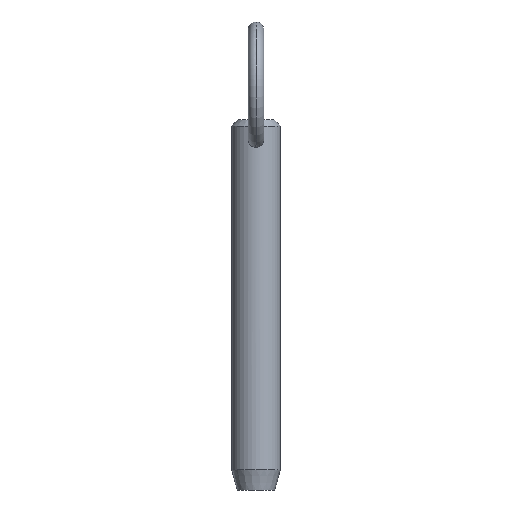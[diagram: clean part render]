
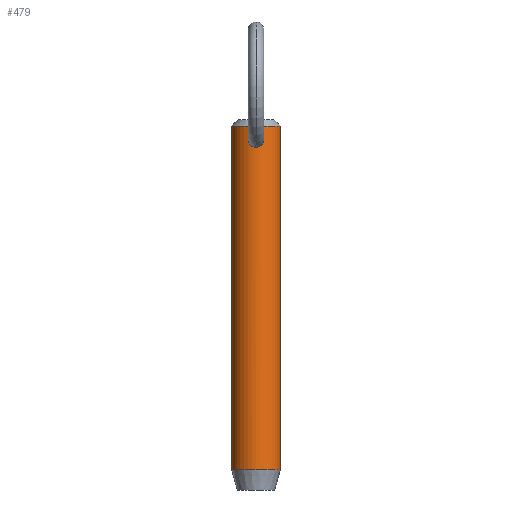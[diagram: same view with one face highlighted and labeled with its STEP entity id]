
A CAD part, front view. The second image highlights one B-rep face of the part: STEP entity #479.
In plain terms, the highlighted cylindrical face has radius 4.76 mm (diameter 9.52 mm), a partial arc.
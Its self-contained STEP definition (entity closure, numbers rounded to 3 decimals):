
#9 = VECTOR ( 'NONE', #254, 1000. ) ;
#18 = CARTESIAN_POINT ( 'NONE',  ( 1.478, -4.525, 56.052 ) ) ;
#24 = CARTESIAN_POINT ( 'NONE',  ( -0.703, -4.709, 54.389 ) ) ;
#27 = CARTESIAN_POINT ( 'NONE',  ( -0.103, -4.76, 57.548 ) ) ;
#29 = CARTESIAN_POINT ( 'NONE',  ( -1.483, -4.524, 55.426 ) ) ;
#30 = CARTESIAN_POINT ( 'NONE',  ( 0.97, -4.662, 54.55 ) ) ;
#45 = DIRECTION ( 'NONE',  ( 0., 0., 1. ) ) ;
#47 = CARTESIAN_POINT ( 'NONE',  ( 0.209, -4.756, 57.534 ) ) ;
#48 = CARTESIAN_POINT ( 'NONE',  ( 4.76, 0., 53.3 ) ) ;
#49 = CARTESIAN_POINT ( 'NONE',  ( 1.45, -4.534, 55.328 ) ) ;
#51 = CARTESIAN_POINT ( 'NONE',  ( -0.208, -4.757, 57.534 ) ) ;
#52 = CARTESIAN_POINT ( 'NONE',  ( 1.492, -4.52, 55.948 ) ) ;
#54 = VERTEX_POINT ( 'NONE', #200 ) ;
#59 = CARTESIAN_POINT ( 'NONE',  ( 0., -4.76, 54.226 ) ) ;
#77 = B_SPLINE_CURVE_WITH_KNOTS ( 'NONE', 3,
 ( #218, #215, #221, #24, #141, #508, #259, #261, #263, #29, #257, #173, #131, #429, #168, #468, #341, #309, #90, #51, #27, #472 ),
 .UNSPECIFIED., .F., .F.,
 ( 4, 2, 2, 2, 2, 2, 2, 2, 2, 2, 4 ),
 ( 0.009, 0.01, 0.01, 0.011, 0.011, 0.012, 0.012, 0.013, 0.014, 0.014, 0.014 ),
 .UNSPECIFIED. ) ;
#89 = CARTESIAN_POINT ( 'NONE',  ( 1.344, -4.567, 55.039 ) ) ;
#90 = CARTESIAN_POINT ( 'NONE',  ( -0.409, -4.743, 57.478 ) ) ;
#94 = CIRCLE ( 'NONE', #146, 4.76 ) ;
#105 = CARTESIAN_POINT ( 'NONE',  ( 0., -4.76, 57.548 ) ) ;
#109 = CARTESIAN_POINT ( 'NONE',  ( 0.104, -4.76, 57.548 ) ) ;
#117 = LINE ( 'NONE', #461, #9 ) ;
#122 = CARTESIAN_POINT ( 'NONE',  ( 0.506, -4.734, 57.437 ) ) ;
#124 = CARTESIAN_POINT ( 'NONE',  ( -4.76, 0., -8.7 ) ) ;
#126 = ORIENTED_EDGE ( 'NONE', *, *, #191, .T. ) ;
#130 = CARTESIAN_POINT ( 'NONE',  ( 1.178, -4.613, 54.776 ) ) ;
#131 = CARTESIAN_POINT ( 'NONE',  ( -1.441, -4.537, 56.257 ) ) ;
#135 = AXIS2_PLACEMENT_3D ( 'NONE', #139, #217, #389 ) ;
#139 = CARTESIAN_POINT ( 'NONE',  ( 0., 0., 58.35 ) ) ;
#141 = CARTESIAN_POINT ( 'NONE',  ( -0.793, -4.694, 54.439 ) ) ;
#146 = AXIS2_PLACEMENT_3D ( 'NONE', #209, #45, #211 ) ;
#151 = EDGE_CURVE ( 'NONE', #177, #54, #418, .T. ) ;
#156 = CARTESIAN_POINT ( 'NONE',  ( 4.76, 0., 58.35 ) ) ;
#165 = AXIS2_PLACEMENT_3D ( 'NONE', #172, #258, #349 ) ;
#168 = CARTESIAN_POINT ( 'NONE',  ( -1.19, -4.611, 56.824 ) ) ;
#172 = CARTESIAN_POINT ( 'NONE',  ( 0., 0., 53.3 ) ) ;
#173 = CARTESIAN_POINT ( 'NONE',  ( -1.487, -4.522, 56.053 ) ) ;
#177 = VERTEX_POINT ( 'NONE', #156 ) ;
#179 = EDGE_CURVE ( 'NONE', #305, #190, #117, .T. ) ;
#190 = VERTEX_POINT ( 'NONE', #124 ) ;
#191 = EDGE_CURVE ( 'NONE', #190, #54, #94, .T. ) ;
#200 = CARTESIAN_POINT ( 'NONE',  ( 4.76, 0., -8.7 ) ) ;
#205 = CARTESIAN_POINT ( 'NONE',  ( 1.499, -4.518, 55.637 ) ) ;
#208 = CARTESIAN_POINT ( 'NONE',  ( 1.19, -4.611, 56.824 ) ) ;
#209 = CARTESIAN_POINT ( 'NONE',  ( 0., 0., -8.7 ) ) ;
#210 = CARTESIAN_POINT ( 'NONE',  ( 0.77, -4.698, 57.275 ) ) ;
#211 = DIRECTION ( 'NONE',  ( -1., 0., 0. ) ) ;
#215 = CARTESIAN_POINT ( 'NONE',  ( -0.21, -4.76, 54.226 ) ) ;
#217 = DIRECTION ( 'NONE',  ( 0., 0., -1. ) ) ;
#218 = CARTESIAN_POINT ( 'NONE',  ( 0., -4.76, 54.226 ) ) ;
#219 = EDGE_CURVE ( 'NONE', #455, #370, #77, .T. ) ;
#221 = CARTESIAN_POINT ( 'NONE',  ( -0.416, -4.746, 54.267 ) ) ;
#234 = CIRCLE ( 'NONE', #135, 4.76 ) ;
#243 = FACE_OUTER_BOUND ( 'NONE', #509, .T. ) ;
#253 = CARTESIAN_POINT ( 'NONE',  ( 0.997, -4.655, 57.064 ) ) ;
#254 = DIRECTION ( 'NONE',  ( 0., 0., -1. ) ) ;
#257 = CARTESIAN_POINT ( 'NONE',  ( -1.508, -4.515, 55.637 ) ) ;
#258 = DIRECTION ( 'NONE',  ( 0., 0., -1. ) ) ;
#259 = CARTESIAN_POINT ( 'NONE',  ( -1.039, -4.646, 54.626 ) ) ;
#261 = CARTESIAN_POINT ( 'NONE',  ( -1.247, -4.596, 54.852 ) ) ;
#263 = CARTESIAN_POINT ( 'NONE',  ( -1.353, -4.564, 55.035 ) ) ;
#264 = CARTESIAN_POINT ( 'NONE',  ( 0.797, -4.697, 54.429 ) ) ;
#266 = CARTESIAN_POINT ( 'NONE',  ( 0., -4.76, 54.226 ) ) ;
#279 = CARTESIAN_POINT ( 'NONE',  ( 0., -4.76, 57.548 ) ) ;
#291 = CARTESIAN_POINT ( 'NONE',  ( 1.404, -4.548, 56.353 ) ) ;
#294 = CARTESIAN_POINT ( 'NONE',  ( 1.473, -4.526, 55.431 ) ) ;
#299 = CARTESIAN_POINT ( 'NONE',  ( 1.503, -4.517, 55.74 ) ) ;
#302 = CARTESIAN_POINT ( 'NONE',  ( 1.434, -4.539, 56.254 ) ) ;
#305 = VERTEX_POINT ( 'NONE', #477 ) ;
#309 = CARTESIAN_POINT ( 'NONE',  ( -0.504, -4.734, 57.438 ) ) ;
#311 = CARTESIAN_POINT ( 'NONE',  ( 0.105, -4.76, 54.226 ) ) ;
#313 = CARTESIAN_POINT ( 'NONE',  ( 0.411, -4.743, 54.277 ) ) ;
#333 = CARTESIAN_POINT ( 'NONE',  ( 1.385, -4.554, 55.132 ) ) ;
#335 = CARTESIAN_POINT ( 'NONE',  ( 0.925, -4.67, 57.139 ) ) ;
#338 = ORIENTED_EDGE ( 'NONE', *, *, #151, .F. ) ;
#340 = CARTESIAN_POINT ( 'NONE',  ( 0.208, -4.757, 54.236 ) ) ;
#341 = CARTESIAN_POINT ( 'NONE',  ( -0.777, -4.7, 57.285 ) ) ;
#349 = DIRECTION ( 'NONE',  ( -1., 0., 0. ) ) ;
#370 = VERTEX_POINT ( 'NONE', #105 ) ;
#379 = CARTESIAN_POINT ( 'NONE',  ( 1.24, -4.596, 54.86 ) ) ;
#389 = DIRECTION ( 'NONE',  ( 1., 0., 0. ) ) ;
#398 = EDGE_LOOP ( 'NONE', ( #401, #507 ) ) ;
#401 = ORIENTED_EDGE ( 'NONE', *, *, #442, .T. ) ;
#418 = LINE ( 'NONE', #48, #453 ) ;
#427 = ORIENTED_EDGE ( 'NONE', *, *, #450, .T. ) ;
#429 = CARTESIAN_POINT ( 'NONE',  ( -1.292, -4.582, 56.645 ) ) ;
#437 = FACE_BOUND ( 'NONE', #398, .T. ) ;
#442 = EDGE_CURVE ( 'NONE', #370, #455, #493, .T. ) ;
#450 = EDGE_CURVE ( 'NONE', #177, #305, #234, .T. ) ;
#453 = VECTOR ( 'NONE', #504, 1000. ) ;
#455 = VERTEX_POINT ( 'NONE', #266 ) ;
#461 = CARTESIAN_POINT ( 'NONE',  ( -4.76, 0., 53.3 ) ) ;
#463 = CARTESIAN_POINT ( 'NONE',  ( 0.409, -4.743, 57.478 ) ) ;
#467 = CARTESIAN_POINT ( 'NONE',  ( 0.687, -4.711, 57.335 ) ) ;
#468 = CARTESIAN_POINT ( 'NONE',  ( -0.932, -4.67, 57.145 ) ) ;
#472 = CARTESIAN_POINT ( 'NONE',  ( 0., -4.76, 57.548 ) ) ;
#476 = CARTESIAN_POINT ( 'NONE',  ( 0.512, -4.733, 54.308 ) ) ;
#477 = CARTESIAN_POINT ( 'NONE',  ( -4.76, 0., 58.35 ) ) ;
#479 = ADVANCED_FACE ( 'NONE', ( #243, #437 ), #484, .T. ) ;
#484 = CYLINDRICAL_SURFACE ( 'NONE', #165, 4.76 ) ;
#493 = B_SPLINE_CURVE_WITH_KNOTS ( 'NONE', 3,
 ( #279, #109, #47, #463, #122, #467, #210, #335, #253, #208, #501, #291, #302, #18, #52, #299, #205, #294, #49, #333, #89, #379, #130, #30, #264, #476, #313, #340, #311, #59 ),
 .UNSPECIFIED., .F., .F.,
 ( 4, 2, 2, 2, 2, 2, 2, 2, 2, 2, 2, 2, 2, 2, 4 ),
 ( 0.004, 0.005, 0.005, 0.005, 0.006, 0.006, 0.007, 0.007, 0.007, 0.007, 0.008, 0.008, 0.009, 0.009, 0.009 ),
 .UNSPECIFIED. ) ;
#501 = CARTESIAN_POINT ( 'NONE',  ( 1.293, -4.582, 56.642 ) ) ;
#504 = DIRECTION ( 'NONE',  ( 0., 0., -1. ) ) ;
#507 = ORIENTED_EDGE ( 'NONE', *, *, #219, .T. ) ;
#508 = CARTESIAN_POINT ( 'NONE',  ( -0.961, -4.663, 54.557 ) ) ;
#509 = EDGE_LOOP ( 'NONE', ( #338, #427, #514, #126 ) ) ;
#514 = ORIENTED_EDGE ( 'NONE', *, *, #179, .T. ) ;
